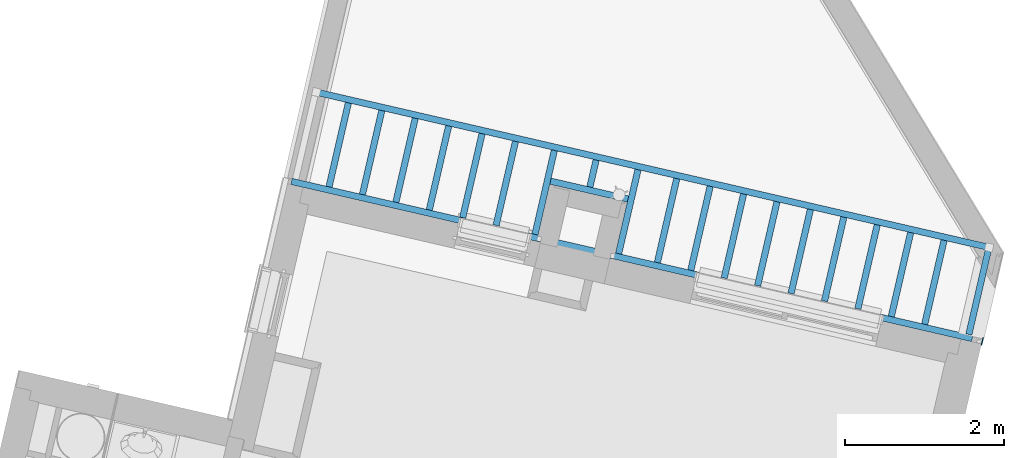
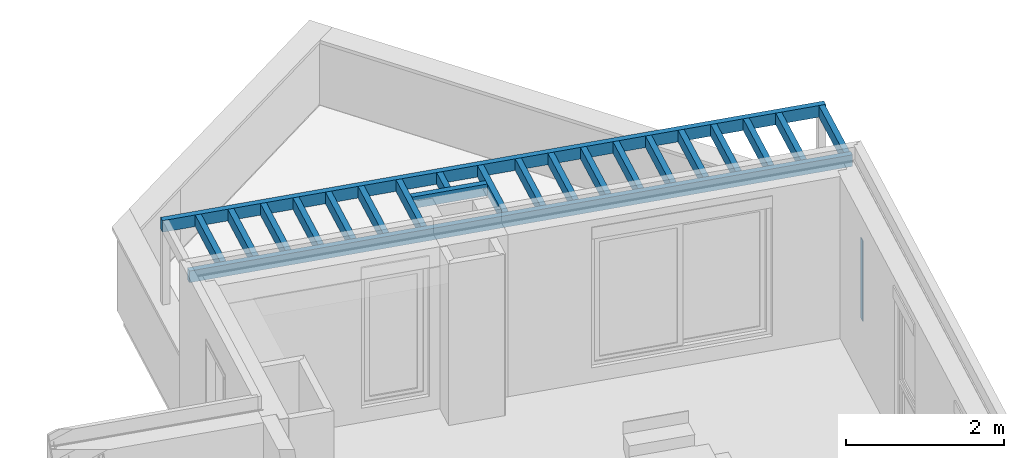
# One storey, part 1 of 62: 22 fasteners, 1 wall.
"""IFC2X3 building model written with IfcOpenShell, lengths in metres."""

from ifc_helpers import new_model, entity, si_unit, converted_unit, derived_unit, money_unit, direction, frame, origin_with_axes, place, context, subcontext, project, spatial, faceted_brep, source, transform, mapped, material, type_object, element, save


model = new_model("IFC2X3")

# Units and contexts
model_context = context("Model", 3, precision=1e-05, world=origin_with_axes(), true_north=direction((0.0, 1.0)))
body_context = subcontext(model_context, "Body", "Model", "MODEL_VIEW")
ifc_project = project(units=[si_unit("LENGTHUNIT", "METRE"), si_unit("AREAUNIT", "SQUARE_METRE"), si_unit("VOLUMEUNIT", "CUBIC_METRE"), converted_unit("PLANEANGLEUNIT", "DEGREE", entity("IfcPlaneAngleMeasure", 0.0174532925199), si_unit("PLANEANGLEUNIT", "RADIAN"), dimensions=[0, 0, 0, 0, 0, 0, 0]), si_unit("SOLIDANGLEUNIT", "STERADIAN"), money_unit("EUR"), converted_unit("TIMEUNIT", "Year", entity("IfcTimeMeasure", 31556926.0), si_unit("TIMEUNIT", "SECOND"), dimensions=[0, 0, 1, 0, 0, 0, 0]), si_unit("MASSUNIT", "GRAM", prefix="KILO"), si_unit("THERMODYNAMICTEMPERATUREUNIT", "DEGREE_CELSIUS"), si_unit("LUMINOUSINTENSITYUNIT", "LUMEN"), si_unit("ENERGYUNIT", "JOULE", prefix="MEGA"), derived_unit("THERMALCONDUCTANCEUNIT", [(si_unit("POWERUNIT", "WATT"), 1), (si_unit("LENGTHUNIT", "METRE"), -1), (si_unit("THERMODYNAMICTEMPERATUREUNIT", "KELVIN"), -1)]), derived_unit("SPECIFICHEATCAPACITYUNIT", [(si_unit("ENERGYUNIT", "JOULE"), 1), (si_unit("MASSUNIT", "GRAM", prefix="KILO"), -1), (si_unit("THERMODYNAMICTEMPERATUREUNIT", "KELVIN"), -1)]), derived_unit("MASSDENSITYUNIT", [(si_unit("MASSUNIT", "GRAM", prefix="KILO"), 1), (si_unit("VOLUMEUNIT", "CUBIC_METRE"), -1)])], contexts=[model_context])

# Site, building, storey
site_placement = place(None, origin_with_axes())
site = spatial("IfcSite", under=ifc_project, at=site_placement, Name="Site", CompositionType="ELEMENT")
building_placement = place(site_placement, origin_with_axes())
building = spatial("IfcBuilding", under=site, at=building_placement, Name="Bâtiment", CompositionType="ELEMENT")
storey_placement = place(building_placement, frame((0.0, 0.0, 8.16), z_axis=(0.0, 0.0, 1.0), x_axis=(1.0, 0.0, 0.0)))
storey = spatial("IfcBuildingStorey", under=building, at=storey_placement, Name="R+3", CompositionType="ELEMENT", Elevation=8.16)

# Wall
ifc_material_1 = material(Name="Béton")
wall_type = type_object("IfcWallType", Name="Béton 10", PredefinedType="USERDEFINED")
wall_placement = place(storey_placement, frame((1.27129525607, 12.8316332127, -0.03), z_axis=(0.0, 0.0, 1.0), x_axis=(-0.224876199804, -0.974387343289, 0.0)))
element("IfcWall", 1, at=wall_placement, inside=storey, type_object=wall_type, material=ifc_material_1, Name="M_Ext-012", ObjectType="SOLIDWALL", context=body_context, shape_type="Brep", body=[
    faceted_brep([(0.0, -0.01, 1.25), (0.097407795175, -0.01, 1.25), (0.097407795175, 0.0, 1.25), (0.0, 0.0, 1.25), (0.0, -0.01, 0.0), (0.097407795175, -0.01, 0.0), (0.097407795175, 0.0, 0.0), (0.0, 0.0, 0.0)], [[[0, 1, 2, 3]], [[4, 5, 1, 0]], [[2, 1, 5, 6]], [[3, 2, 6, 7]], [[4, 0, 3, 7]], [[7, 6, 5, 4]]]),
])

# Fasteners
ifc_material_2 = material(Name="Bois - Massif 01")
fastener_type = type_object("IfcFastenerType", Name="Panne 23")
shared_shape_1 = source(origin_with_axes(), body_context, "Body", "Brep", [
    faceted_brep([(0.0, -0.04, 0.18), (0.0, -0.04, 0.0), (1.08601785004, -0.04, 0.0), (1.08601785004, -0.04, 0.18), (0.0, 0.04, 0.18), (0.0, 0.04, 0.0), (1.08601785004, 0.04, 0.0), (1.08601785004, 0.04, 0.18)], [[[0, 1, 2, 3]], [[0, 4, 5, 1]], [[1, 5, 6, 2]], [[3, 2, 6, 7]], [[4, 0, 3, 7]], [[5, 4, 7, 6]]]),
])
for number, where, z_axis, x_axis, name in (
    (2, (-2.83811403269, 13.7800326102, 2.39), (0.0, 0.0, 1.0), (0.224876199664, 0.974387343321, 0.0), "Traverse bois pergola"),
    (3, (-2.41717870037, 13.682886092, 2.39), (0.0, 0.0, 1.0), (0.224876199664, 0.974387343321, 0.0), "Traverse bois pergola"),
    (4, (0.108433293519, 13.1000069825, 2.39), (0.0, 0.0, 1.0), (0.224876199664, 0.974387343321, 0.0), "Traverse bois pergola"),
):
    element("IfcFastener", number, at=place(storey_placement, frame(where, z_axis=z_axis, x_axis=x_axis)), inside=storey, type_object=fastener_type, material=ifc_material_2, Name=name, context=body_context, shape_type="MappedRepresentation", body=[
        mapped(shared_shape_1, transform((0.0, 0.0, 0.0))),
    ])
shared_shape_2 = source(origin_with_axes(), body_context, "Body", "Brep", [
    faceted_brep([(0.0, -0.04, 0.18), (0.0, -0.04, 0.0), (8.79971864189, -0.04, 0.0), (8.79971864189, -0.04, 0.18), (0.0, 0.04, 0.18), (0.0, 0.04, 0.0), (8.79971864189, 0.04, 0.0), (8.79971864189, 0.04, 0.18)], [[[0, 1, 2, 3]], [[0, 4, 5, 1]], [[1, 5, 6, 2]], [[3, 2, 6, 7]], [[4, 0, 3, 7]], [[5, 4, 7, 6]]]),
])
for number, where, z_axis, x_axis, name in (
    (5, (-7.18412451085, 15.9386527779, 2.39), (0.0, 0.0, 1.0), (0.974387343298, -0.224876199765, 0.0), "Traverse bois pergola"),
    (6, (-7.44633417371, 14.8024997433, 2.39), (0.0, 0.0, 1.0), (0.974387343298, -0.224876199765, 0.0), "Traverse bois pergola"),
):
    element("IfcFastener", number, at=place(storey_placement, frame(where, z_axis=z_axis, x_axis=x_axis)), inside=storey, type_object=fastener_type, material=ifc_material_2, Name=name, context=body_context, shape_type="MappedRepresentation", body=[
        mapped(shared_shape_2, transform((0.0, 0.0, 0.0))),
    ])
shared_shape_3 = source(origin_with_axes(), body_context, "Body", "Brep", [
    faceted_brep([(0.0, -0.04, 0.18), (-1.08601785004, -0.04, 0.18), (-1.08601785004, -0.04, 0.0), (0.0, -0.04, 0.0), (0.0, 0.04, 0.18), (-1.08601785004, 0.04, 0.18), (-1.08601785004, 0.04, 0.0), (0.0, 0.04, 0.0)], [[[0, 1, 2, 3]], [[4, 5, 1, 0]], [[1, 5, 6, 2]], [[3, 2, 6, 7]], [[0, 3, 7, 4]], [[7, 6, 5, 4]]]),
])
for number, where, z_axis, x_axis, name in (
    (7, (-1.99624336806, 13.5857395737, 2.39), (0.0, 0.0, 1.0), (-0.224876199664, -0.974387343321, 0.0), "Traverse bois pergola"),
    (8, (-1.15437270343, 13.3914465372, 2.39), (0.0, 0.0, 1.0), (-0.224876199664, -0.974387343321, 0.0), "Traverse bois pergola"),
):
    element("IfcFastener", number, at=place(storey_placement, frame(where, z_axis=z_axis, x_axis=x_axis)), inside=storey, type_object=fastener_type, material=ifc_material_2, Name=name, context=body_context, shape_type="MappedRepresentation", body=[
        mapped(shared_shape_3, transform((0.0, 0.0, 0.0))),
    ])
fastener_1_placement = place(storey_placement, frame((1.0857598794, 12.874452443, 2.39), z_axis=(0.0, 0.0, 1.0), x_axis=(0.224876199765, 0.974387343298, 0.0)))
element("IfcFastener", 9, at=fastener_1_placement, inside=storey, type_object=fastener_type, material=ifc_material_2, Name="Traverse bois pergola", context=body_context, shape_type="Brep", body=[
    faceted_brep([(0.0, -0.04, 0.18), (0.0, -0.04, 0.0), (1.0860178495, -0.04, 0.0), (1.0860178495, -0.04, 0.18), (0.0, 0.04, 0.18), (0.0, 0.04, 0.0), (1.0860178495, 0.04, 0.0), (1.0860178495, 0.04, 0.18)], [[[0, 1, 2, 3]], [[0, 4, 5, 1]], [[1, 5, 6, 2]], [[3, 2, 6, 7]], [[4, 0, 3, 7]], [[5, 4, 7, 6]]]),
])
fastener_2_placement = place(storey_placement, frame((-6.13275828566, 14.5403945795, 2.39), z_axis=(0.0, 0.0, 1.0), x_axis=(0.224876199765, 0.974387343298, 0.0)))
element("IfcFastener", 10, at=fastener_2_placement, inside=storey, type_object=fastener_type, material=ifc_material_2, Name="Traverse bois pergola", context=body_context, shape_type="Brep", body=[
    faceted_brep([(0.0, -0.04, 0.18), (0.0, -0.04, 0.0), (1.08601784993, -0.04, 0.0), (1.08601784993, -0.04, 0.18), (0.0, 0.04, 0.18), (0.0, 0.04, 0.0), (1.08601784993, 0.04, 0.0), (1.08601784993, 0.04, 0.18)], [[[0, 1, 2, 3]], [[0, 4, 5, 1]], [[1, 5, 6, 2]], [[3, 2, 6, 7]], [[4, 0, 3, 7]], [[5, 4, 7, 6]]]),
])
fastener_3_placement = place(storey_placement, frame((-4.37987281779, 14.135850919, 2.39), z_axis=(0.0, 0.0, 1.0), x_axis=(-0.224876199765, -0.974387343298, 0.0)))
element("IfcFastener", 11, at=fastener_3_placement, inside=storey, type_object=fastener_type, material=ifc_material_2, Name="Traverse bois pergola", context=body_context, shape_type="Brep", body=[
    faceted_brep([(0.0, -0.04, 0.18), (-1.08522194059, -0.04, 0.18), (-1.08522194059, -0.04, 0.0), (0.0, -0.04, 0.0), (0.0, 0.04, 0.18), (-1.08522194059, 0.04, 0.18), (-1.08522194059, 0.04, 0.0), (0.0, 0.04, 0.0)], [[[0, 1, 2, 3]], [[4, 5, 1, 0]], [[1, 5, 6, 2]], [[3, 2, 6, 7]], [[0, 3, 7, 4]], [[7, 6, 5, 4]]]),
])
fastener_4_placement = place(storey_placement, frame((-5.71182295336, 14.4432480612, 2.39), z_axis=(0.0, 0.0, 1.0), x_axis=(0.224876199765, 0.974387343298, 0.0)))
element("IfcFastener", 12, at=fastener_4_placement, inside=storey, type_object=fastener_type, material=ifc_material_2, Name="Traverse bois pergola", context=body_context, shape_type="Brep", body=[
    faceted_brep([(0.0, -0.04, 0.18), (0.0, -0.04, 0.0), (1.08601784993, -0.04, 0.0), (1.08601784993, -0.04, 0.18), (0.0, 0.04, 0.18), (0.0, 0.04, 0.0), (1.08601784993, 0.04, 0.0), (1.08601784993, 0.04, 0.18)], [[[0, 1, 2, 3]], [[0, 4, 5, 1]], [[1, 5, 6, 2]], [[3, 2, 6, 7]], [[4, 0, 3, 7]], [[5, 4, 7, 6]]]),
])
fastener_5_placement = place(storey_placement, frame((-1.57530803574, 13.4885930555, 2.39), z_axis=(0.0, 0.0, 1.0), x_axis=(-0.224876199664, -0.974387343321, 0.0)))
element("IfcFastener", 13, at=fastener_5_placement, inside=storey, type_object=fastener_type, material=ifc_material_2, Name="Traverse bois pergola", context=body_context, shape_type="Brep", body=[
    faceted_brep([(0.0, -0.04, 0.18), (-1.08601785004, -0.04, 0.18), (-1.08601785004, -0.04, 0.0), (0.0, -0.04, 0.0), (0.0, 0.04, 0.18), (-1.08601785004, 0.04, 0.18), (-1.08601785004, 0.04, 0.0), (0.0, 0.04, 0.0)], [[[0, 1, 2, 3]], [[4, 5, 1, 0]], [[1, 5, 6, 2]], [[3, 2, 6, 7]], [[0, 3, 7, 4]], [[7, 6, 5, 4]]]),
])
fastener_6_placement = place(storey_placement, frame((-3.68829940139, 14.73261729, 2.39), z_axis=(0.0, 0.0, 1.0), x_axis=(-0.224876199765, -0.974387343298, 0.0)))
element("IfcFastener", 14, at=fastener_6_placement, inside=storey, type_object=fastener_type, material=ifc_material_2, Name="Traverse bois pergola", context=body_context, shape_type="Brep", body=[
    faceted_brep([(0.0, -0.04, 0.18), (-0.348221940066, -0.04, 0.18), (-0.348221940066, -0.04, 0.0), (0.0, -0.04, 0.0), (0.0, 0.04, 0.18), (-0.348221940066, 0.04, 0.18), (-0.348221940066, 0.04, 0.0), (0.0, 0.04, 0.0)], [[[0, 1, 2, 3]], [[4, 5, 1, 0]], [[1, 5, 6, 2]], [[3, 2, 6, 7]], [[0, 3, 7, 4]], [[7, 6, 5, 4]]]),
])
fastener_7_placement = place(storey_placement, frame((-4.86995228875, 14.2489550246, 2.39), z_axis=(0.0, 0.0, 1.0), x_axis=(-0.224876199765, -0.974387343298, 0.0)))
element("IfcFastener", 15, at=fastener_7_placement, inside=storey, type_object=fastener_type, material=ifc_material_2, Name="Traverse bois pergola", context=body_context, shape_type="Brep", body=[
    faceted_brep([(0.0, -0.04, 0.18), (-1.08601784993, -0.04, 0.18), (-1.08601784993, -0.04, 0.0), (0.0, -0.04, 0.0), (0.0, 0.04, 0.18), (-1.08601784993, 0.04, 0.18), (-1.08601784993, 0.04, 0.0), (0.0, 0.04, 0.0)], [[[0, 1, 2, 3]], [[4, 5, 1, 0]], [[1, 5, 6, 2]], [[3, 2, 6, 7]], [[0, 3, 7, 4]], [[7, 6, 5, 4]]]),
])
fastener_8_placement = place(storey_placement, frame((0.529368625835, 13.0028604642, 2.39), z_axis=(0.0, 0.0, 1.0), x_axis=(0.224876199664, 0.974387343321, 0.0)))
element("IfcFastener", 16, at=fastener_8_placement, inside=storey, type_object=fastener_type, material=ifc_material_2, Name="Traverse bois pergola", context=body_context, shape_type="Brep", body=[
    faceted_brep([(0.0, -0.04, 0.18), (0.0, -0.04, 0.0), (1.08601785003, -0.04, 0.0), (1.08601785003, -0.04, 0.18), (0.0, 0.04, 0.18), (0.0, 0.04, 0.0), (1.08601785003, 0.04, 0.0), (1.08601785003, 0.04, 0.18)], [[[0, 1, 2, 3]], [[0, 4, 5, 1]], [[1, 5, 6, 2]], [[3, 2, 6, 7]], [[4, 0, 3, 7]], [[5, 4, 7, 6]]]),
])
fastener_9_placement = place(storey_placement, frame((-6.97462895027, 14.7346876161, 2.39), z_axis=(0.0, 0.0, 1.0), x_axis=(0.224876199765, 0.974387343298, 0.0)))
element("IfcFastener", 17, at=fastener_9_placement, inside=storey, type_object=fastener_type, material=ifc_material_2, Name="Traverse bois pergola", context=body_context, shape_type="Brep", body=[
    faceted_brep([(0.0, -0.04, 0.18), (0.0, -0.04, 0.0), (1.08601784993, -0.04, 0.0), (1.08601784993, -0.04, 0.18), (0.0, 0.04, 0.18), (0.0, 0.04, 0.0), (1.08601784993, 0.04, 0.0), (1.08601784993, 0.04, 0.18)], [[[0, 1, 2, 3]], [[0, 4, 5, 1]], [[1, 5, 6, 2]], [[3, 2, 6, 7]], [[4, 0, 3, 7]], [[5, 4, 7, 6]]]),
])
fastener_10_placement = place(storey_placement, frame((-0.312502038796, 13.1971535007, 2.39), z_axis=(0.0, 0.0, 1.0), x_axis=(0.224876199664, 0.974387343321, 0.0)))
element("IfcFastener", 18, at=fastener_10_placement, inside=storey, type_object=fastener_type, material=ifc_material_2, Name="Traverse bois pergola", context=body_context, shape_type="Brep", body=[
    faceted_brep([(0.0, -0.04, 0.18), (0.0, -0.04, 0.0), (1.08601785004, -0.04, 0.0), (1.08601785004, -0.04, 0.18), (0.0, 0.04, 0.18), (0.0, 0.04, 0.0), (1.08601785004, 0.04, 0.0), (1.08601785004, 0.04, 0.18)], [[[0, 1, 2, 3]], [[0, 4, 5, 1]], [[1, 5, 6, 2]], [[3, 2, 6, 7]], [[4, 0, 3, 7]], [[5, 4, 7, 6]]]),
])
fastener_11_placement = place(storey_placement, frame((-5.29088762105, 14.3461015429, 2.39), z_axis=(0.0, 0.0, 1.0), x_axis=(-0.224876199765, -0.974387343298, 0.0)))
element("IfcFastener", 19, at=fastener_11_placement, inside=storey, type_object=fastener_type, material=ifc_material_2, Name="Traverse bois pergola", context=body_context, shape_type="Brep", body=[
    faceted_brep([(0.0, -0.04, 0.18), (-1.08601784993, -0.04, 0.18), (-1.08601784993, -0.04, 0.0), (0.0, -0.04, 0.0), (0.0, 0.04, 0.18), (-1.08601784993, 0.04, 0.18), (-1.08601784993, 0.04, 0.0), (0.0, 0.04, 0.0)], [[[0, 1, 2, 3]], [[4, 5, 1, 0]], [[1, 5, 6, 2]], [[3, 2, 6, 7]], [[0, 3, 7, 4]], [[7, 6, 5, 4]]]),
])
fastener_12_placement = place(storey_placement, frame((-3.32621933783, 13.8926811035, 2.39), z_axis=(0.0, 0.0, 1.0), x_axis=(-0.224876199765, -0.974387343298, 0.0)))
element("IfcFastener", 20, at=fastener_12_placement, inside=storey, type_object=fastener_type, material=ifc_material_2, Name="Traverse bois pergola", context=body_context, shape_type="Brep", body=[
    faceted_brep([(0.0, -0.04, 0.18), (-1.08522194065, -0.04, 0.18), (-1.08522194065, -0.04, 0.0), (0.0, -0.04, 0.0), (0.0, 0.04, 0.18), (-1.08522194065, 0.04, 0.18), (-1.08522194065, 0.04, 0.0), (0.0, 0.04, 0.0)], [[[0, 1, 2, 3]], [[4, 5, 1, 0]], [[1, 5, 6, 2]], [[3, 2, 6, 7]], [[0, 3, 7, 4]], [[7, 6, 5, 4]]]),
])
fastener_13_placement = place(storey_placement, frame((-0.733437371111, 13.294300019, 2.39), z_axis=(0.0, 0.0, 1.0), x_axis=(-0.224876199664, -0.974387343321, 0.0)))
element("IfcFastener", 21, at=fastener_13_placement, inside=storey, type_object=fastener_type, material=ifc_material_2, Name="Traverse bois pergola", context=body_context, shape_type="Brep", body=[
    faceted_brep([(0.0, -0.04, 0.18), (-1.08601785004, -0.04, 0.18), (-1.08601785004, -0.04, 0.0), (0.0, -0.04, 0.0), (0.0, 0.04, 0.18), (-1.08601785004, 0.04, 0.18), (-1.08601785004, 0.04, 0.0), (0.0, 0.04, 0.0)], [[[0, 1, 2, 3]], [[4, 5, 1, 0]], [[1, 5, 6, 2]], [[3, 2, 6, 7]], [[0, 3, 7, 4]], [[7, 6, 5, 4]]]),
])
fastener_14_placement = place(storey_placement, frame((-6.55369361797, 14.6375410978, 2.39), z_axis=(0.0, 0.0, 1.0), x_axis=(0.224876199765, 0.974387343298, 0.0)))
element("IfcFastener", 22, at=fastener_14_placement, inside=storey, type_object=fastener_type, material=ifc_material_2, Name="Traverse bois pergola", context=body_context, shape_type="Brep", body=[
    faceted_brep([(0.0, -0.04, 0.18), (0.0, -0.04, 0.0), (1.08601784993, -0.04, 0.0), (1.08601784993, -0.04, 0.18), (0.0, 0.04, 0.18), (0.0, 0.04, 0.0), (1.08601784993, 0.04, 0.0), (1.08601784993, 0.04, 0.18)], [[[0, 1, 2, 3]], [[0, 4, 5, 1]], [[1, 5, 6, 2]], [[3, 2, 6, 7]], [[4, 0, 3, 7]], [[5, 4, 7, 6]]]),
])
fastener_15_placement = place(storey_placement, frame((-3.2084561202, 14.5808241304, 2.39), z_axis=(0.0, 0.0, 1.0), x_axis=(0.974387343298, -0.224876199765, 0.0)))
element("IfcFastener", 23, at=fastener_15_placement, inside=storey, type_object=fastener_type, material=ifc_material_2, Name="Traverse bois pergola", context=body_context, shape_type="Brep", body=[
    faceted_brep([(0.0, -0.04, 0.18), (-1.00134971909, -0.04, 0.18), (-1.00134971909, -0.04, 0.0), (0.0, -0.04, 0.0), (0.0, 0.04, 0.18), (-1.00134971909, 0.04, 0.18), (-1.00134971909, 0.04, 0.0), (0.0, 0.04, 0.0)], [[[0, 1, 2, 3]], [[4, 5, 1, 0]], [[1, 5, 6, 2]], [[3, 2, 6, 7]], [[0, 3, 7, 4]], [[7, 6, 5, 4]]]),
])

save(model, "model.ifc")
